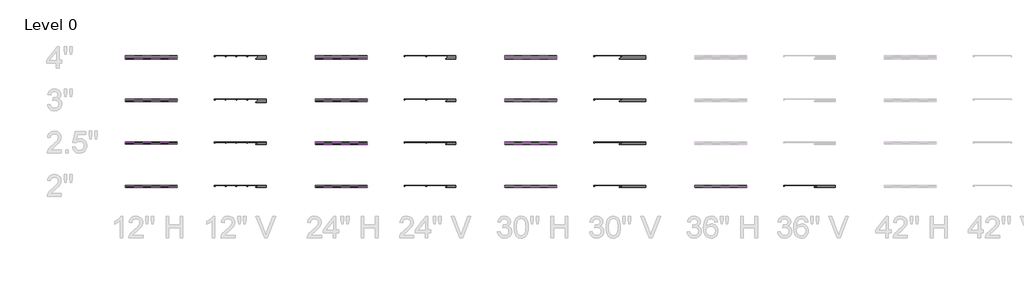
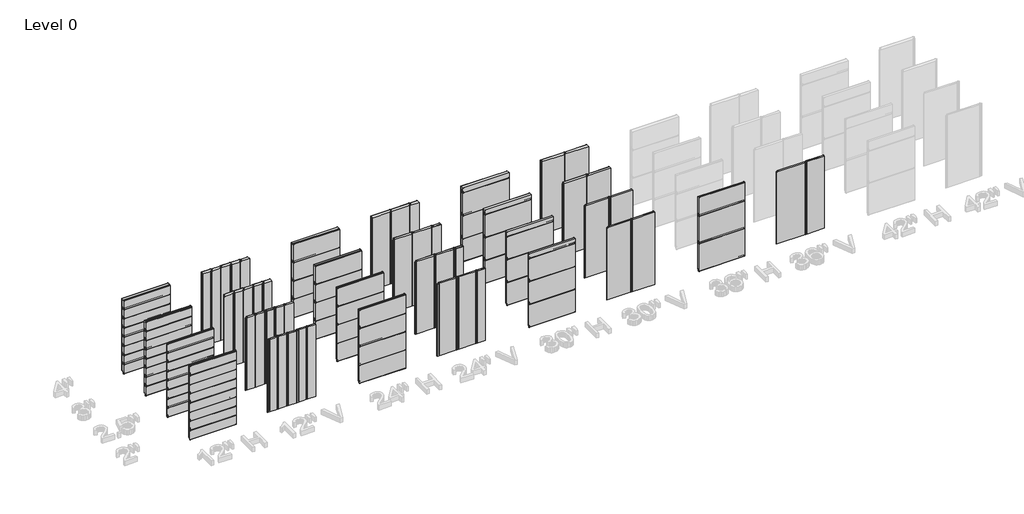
# One storey, part 1 of 5: 109 plates.
"""IFC4 building model written with IfcOpenShell, lengths in millimetres."""

from ifc_helpers import new_model, si_unit, origin, place, context, project, spatial, transform, mapped, element, save
from components import plate_d5d736a9, plate_7ae7a847, plate_e7262bf4, plate_868071fc, plate_7f3252d8, plate_fb6e7e47, plate_fc1f2779, plate_1d96f5e6, plate_dc62b988, plate_4f4d566a, plate_b7dfedd1, plate_15d6752c, plate_9c47cac3, plate_c147d802, plate_e3d8686c, plate_0189f967, plate_9adf70af, plate_6caacb33, plate_a111290b, plate_28d234ab, plate_9c1a4f24, plate_54af91b3, plate_a1647500, plate_f60e9f4d, plate_8043bdb3, plate_a1f4ee09, plate_13ea33e8, plate_2ae8091a, plate_82fcdb9b, plate_b0db7024, plate_3a0255f0, plate_8e6019d6, plate_6fc24e39, plate_dc01b275, plate_81533cbf, plate_93284a91, plate_267bbc77, plate_3ce9a7e6, plate_286a8e0f, plate_bcd3ad99, plate_d223b39a, plate_240653d1, plate_f41fd1ef, plate_e6b5dcf6, plate_4ca61c65, plate_cc8460fd, plate_b093a8a8, plate_925c1c1f

model = new_model("IFC4")

# Units and contexts
model_context = context("Model", 3, world=origin())
ifc_project = project(units=[si_unit("LENGTHUNIT", "METRE", prefix="MILLI")], contexts=[model_context])

# Site, building, storey
site = spatial("IfcSite", under=ifc_project)
building = spatial("IfcBuilding", under=site)
storey = spatial("IfcBuildingStorey", under=building, Name="Level 0", Elevation=0.0)

# Plates
placement = place(None, origin())
plate_shape = plate_d5d736a9(model_context)
element("IfcPlate", 1, ObjectType="KIP-36-DWTR-R19-CP-Hz-F : Hz 2\"", at=placement, inside=storey, context=model_context, shape_type="MappedRepresentation", body=[
    mapped(plate_shape, transform((-13782.7250935, 10881.8207172, 0.0), x_axis=(1.0, 0.0, 0.0), y_axis=(0.0, 1.0, 0.0), z_axis=(0.0, 0.0, 1.0))),
])
element("IfcPlate", 2, ObjectType="KIP-36-DWTR-R19-CP-Hz-F : Hz 2\"", at=placement, inside=storey, context=model_context, shape_type="MappedRepresentation", body=[
    mapped(plate_shape, transform((-13782.7250935, 10881.8207172, 915.0), x_axis=(1.0, 0.0, 0.0), y_axis=(0.0, 1.0, 0.0), z_axis=(0.0, 0.0, 1.0))),
])
plate_2_shape = plate_7ae7a847(model_context)
element("IfcPlate", 3, ObjectType="KIP-36-DWTR-R19-CP-Hz-F : Hz 2\"", at=placement, inside=storey, context=model_context, shape_type="MappedRepresentation", body=[
    mapped(plate_2_shape, transform((-13782.7250935, 10881.8207172, 1830.0), x_axis=(1.0, 0.0, 0.0), y_axis=(0.0, 1.0, 0.0), z_axis=(0.0, 0.0, 1.0))),
])
plate_3_shape = plate_e7262bf4(model_context)
element("IfcPlate", 4, ObjectType="KIP-30-DWTR-R19-CP-Hz-F : Hz 2\"", at=placement, inside=storey, context=model_context, shape_type="MappedRepresentation", body=[
    mapped(plate_3_shape, transform((-19116.7250935, 10881.8207172, 0.0), x_axis=(1.0, 0.0, 0.0), y_axis=(0.0, 1.0, 0.0), z_axis=(0.0, 0.0, 1.0))),
])
element("IfcPlate", 5, ObjectType="KIP-30-DWTR-R19-CP-Hz-F : Hz 2\"", at=placement, inside=storey, context=model_context, shape_type="MappedRepresentation", body=[
    mapped(plate_3_shape, transform((-19116.7250935, 10881.8207172, 762.2), x_axis=(1.0, 0.0, 0.0), y_axis=(0.0, 1.0, 0.0), z_axis=(0.0, 0.0, 1.0))),
])
element("IfcPlate", 6, ObjectType="KIP-30-DWTR-R19-CP-Hz-F : Hz 2\"", at=placement, inside=storey, context=model_context, shape_type="MappedRepresentation", body=[
    mapped(plate_3_shape, transform((-19116.7250935, 10881.8207172, 1524.4), x_axis=(1.0, 0.0, 0.0), y_axis=(0.0, 1.0, 0.0), z_axis=(0.0, 0.0, 1.0))),
])
plate_4_shape = plate_868071fc(model_context)
element("IfcPlate", 7, ObjectType="KIP-30-DWTR-R19-CP-Hz-F : Hz 2\"", at=placement, inside=storey, context=model_context, shape_type="MappedRepresentation", body=[
    mapped(plate_4_shape, transform((-19116.7250935, 10881.8207172, 2286.6), x_axis=(1.0, 0.0, 0.0), y_axis=(0.0, 1.0, 0.0), z_axis=(0.0, 0.0, 1.0))),
])
plate_5_shape = plate_7f3252d8(model_context)
element("IfcPlate", 8, ObjectType="KIP-24-DWTR-R19-CP-Hz-F : Hz 2\"", at=placement, inside=storey, context=model_context, shape_type="MappedRepresentation", body=[
    mapped(plate_5_shape, transform((-24450.7250935, 10881.8207172, 0.0), x_axis=(1.0, 0.0, 0.0), y_axis=(0.0, 1.0, 0.0), z_axis=(0.0, 0.0, 1.0))),
])
element("IfcPlate", 9, ObjectType="KIP-24-DWTR-R19-CP-Hz-F : Hz 2\"", at=placement, inside=storey, context=model_context, shape_type="MappedRepresentation", body=[
    mapped(plate_5_shape, transform((-24450.7250935, 10881.8207172, 609.6), x_axis=(1.0, 0.0, 0.0), y_axis=(0.0, 1.0, 0.0), z_axis=(0.0, 0.0, 1.0))),
])
element("IfcPlate", 10, ObjectType="KIP-24-DWTR-R19-CP-Hz-F : Hz 2\"", at=placement, inside=storey, context=model_context, shape_type="MappedRepresentation", body=[
    mapped(plate_5_shape, transform((-24450.7250935, 10881.8207172, 1219.2), x_axis=(1.0, 0.0, 0.0), y_axis=(0.0, 1.0, 0.0), z_axis=(0.0, 0.0, 1.0))),
])
plate_6_shape = plate_fb6e7e47(model_context)
element("IfcPlate", 11, ObjectType="KIP-24-DWTR-R19-CP-Hz-F : Hz 2\"", at=placement, inside=storey, context=model_context, shape_type="MappedRepresentation", body=[
    mapped(plate_6_shape, transform((-24450.7250935, 10881.8207172, 1828.8), x_axis=(1.0, 0.0, 0.0), y_axis=(0.0, 1.0, 0.0), z_axis=(0.0, 0.0, 1.0))),
])
plate_7_shape = plate_fc1f2779(model_context)
element("IfcPlate", 12, ObjectType="KIP-12-DWTR-R19-CP-Hz-F : Hz 2\"", at=placement, inside=storey, context=model_context, shape_type="MappedRepresentation", body=[
    mapped(plate_7_shape, transform((-29784.7250935, 10881.8207172, 0.0), x_axis=(1.0, 0.0, 0.0), y_axis=(0.0, 1.0, 0.0), z_axis=(0.0, 0.0, 1.0))),
])
element("IfcPlate", 13, ObjectType="KIP-12-DWTR-R19-CP-Hz-F : Hz 2\"", at=placement, inside=storey, context=model_context, shape_type="MappedRepresentation", body=[
    mapped(plate_7_shape, transform((-29784.7250935, 10881.8207172, 304.8), x_axis=(1.0, 0.0, 0.0), y_axis=(0.0, 1.0, 0.0), z_axis=(0.0, 0.0, 1.0))),
])
element("IfcPlate", 14, ObjectType="KIP-12-DWTR-R19-CP-Hz-F : Hz 2\"", at=placement, inside=storey, context=model_context, shape_type="MappedRepresentation", body=[
    mapped(plate_7_shape, transform((-29784.7250935, 10881.8207172, 609.6), x_axis=(1.0, 0.0, 0.0), y_axis=(0.0, 1.0, 0.0), z_axis=(0.0, 0.0, 1.0))),
])
element("IfcPlate", 15, ObjectType="KIP-12-DWTR-R19-CP-Hz-F : Hz 2\"", at=placement, inside=storey, context=model_context, shape_type="MappedRepresentation", body=[
    mapped(plate_7_shape, transform((-29784.7250935, 10881.8207172, 914.4), x_axis=(1.0, 0.0, 0.0), y_axis=(0.0, 1.0, 0.0), z_axis=(0.0, 0.0, 1.0))),
])
element("IfcPlate", 16, ObjectType="KIP-12-DWTR-R19-CP-Hz-F : Hz 2\"", at=placement, inside=storey, context=model_context, shape_type="MappedRepresentation", body=[
    mapped(plate_7_shape, transform((-29784.7250935, 10881.8207172, 1219.2), x_axis=(1.0, 0.0, 0.0), y_axis=(0.0, 1.0, 0.0), z_axis=(0.0, 0.0, 1.0))),
])
element("IfcPlate", 17, ObjectType="KIP-12-DWTR-R19-CP-Hz-F : Hz 2\"", at=placement, inside=storey, context=model_context, shape_type="MappedRepresentation", body=[
    mapped(plate_7_shape, transform((-29784.7250935, 10881.8207172, 1524.0), x_axis=(1.0, 0.0, 0.0), y_axis=(0.0, 1.0, 0.0), z_axis=(0.0, 0.0, 1.0))),
])
element("IfcPlate", 18, ObjectType="KIP-12-DWTR-R19-CP-Hz-F : Hz 2\"", at=placement, inside=storey, context=model_context, shape_type="MappedRepresentation", body=[
    mapped(plate_7_shape, transform((-29784.7250935, 10881.8207172, 1828.8), x_axis=(1.0, 0.0, 0.0), y_axis=(0.0, 1.0, 0.0), z_axis=(0.0, 0.0, 1.0))),
])
plate_8_shape = plate_1d96f5e6(model_context)
element("IfcPlate", 19, ObjectType="KIP-12-DWTR-R19-CP-Hz-F : Hz 2\"", at=placement, inside=storey, context=model_context, shape_type="MappedRepresentation", body=[
    mapped(plate_8_shape, transform((-29784.7250935, 10881.8207172, 2133.6), x_axis=(1.0, 0.0, 0.0), y_axis=(0.0, 1.0, 0.0), z_axis=(0.0, 0.0, 1.0))),
])
plate_9_shape = plate_dc62b988(model_context)
element("IfcPlate", 20, ObjectType="KIP-30-DWTR-R19-CP-Hz-F : Hz 2.5\"", at=placement, inside=storey, context=model_context, shape_type="MappedRepresentation", body=[
    mapped(plate_9_shape, transform((-19116.7250935, 12101.0207172, 0.0), x_axis=(1.0, 0.0, 0.0), y_axis=(0.0, 1.0, 0.0), z_axis=(0.0, 0.0, 1.0))),
])
element("IfcPlate", 21, ObjectType="KIP-30-DWTR-R19-CP-Hz-F : Hz 2.5\"", at=placement, inside=storey, context=model_context, shape_type="MappedRepresentation", body=[
    mapped(plate_9_shape, transform((-19116.7250935, 12101.0207172, 762.2), x_axis=(1.0, 0.0, 0.0), y_axis=(0.0, 1.0, 0.0), z_axis=(0.0, 0.0, 1.0))),
])
element("IfcPlate", 22, ObjectType="KIP-30-DWTR-R19-CP-Hz-F : Hz 2.5\"", at=placement, inside=storey, context=model_context, shape_type="MappedRepresentation", body=[
    mapped(plate_9_shape, transform((-19116.7250935, 12101.0207172, 1524.4), x_axis=(1.0, 0.0, 0.0), y_axis=(0.0, 1.0, 0.0), z_axis=(0.0, 0.0, 1.0))),
])
plate_10_shape = plate_4f4d566a(model_context)
element("IfcPlate", 23, ObjectType="KIP-30-DWTR-R19-CP-Hz-F : Hz 2.5\"", at=placement, inside=storey, context=model_context, shape_type="MappedRepresentation", body=[
    mapped(plate_10_shape, transform((-19116.7250935, 12101.0207172, 2286.6), x_axis=(1.0, 0.0, 0.0), y_axis=(0.0, 1.0, 0.0), z_axis=(0.0, 0.0, 1.0))),
])
plate_11_shape = plate_b7dfedd1(model_context)
element("IfcPlate", 24, ObjectType="KIP-24-DWTR-R19-CP-Hz-F : Hz 2.5\"", at=placement, inside=storey, context=model_context, shape_type="MappedRepresentation", body=[
    mapped(plate_11_shape, transform((-24450.7250935, 12101.0207172, 0.0), x_axis=(1.0, 0.0, 0.0), y_axis=(0.0, 1.0, 0.0), z_axis=(0.0, 0.0, 1.0))),
])
element("IfcPlate", 25, ObjectType="KIP-24-DWTR-R19-CP-Hz-F : Hz 2.5\"", at=placement, inside=storey, context=model_context, shape_type="MappedRepresentation", body=[
    mapped(plate_11_shape, transform((-24450.7250935, 12101.0207172, 609.6), x_axis=(1.0, 0.0, 0.0), y_axis=(0.0, 1.0, 0.0), z_axis=(0.0, 0.0, 1.0))),
])
element("IfcPlate", 26, ObjectType="KIP-24-DWTR-R19-CP-Hz-F : Hz 2.5\"", at=placement, inside=storey, context=model_context, shape_type="MappedRepresentation", body=[
    mapped(plate_11_shape, transform((-24450.7250935, 12101.0207172, 1219.2), x_axis=(1.0, 0.0, 0.0), y_axis=(0.0, 1.0, 0.0), z_axis=(0.0, 0.0, 1.0))),
])
plate_12_shape = plate_15d6752c(model_context)
element("IfcPlate", 27, ObjectType="KIP-24-DWTR-R19-CP-Hz-F : Hz 2.5\"", at=placement, inside=storey, context=model_context, shape_type="MappedRepresentation", body=[
    mapped(plate_12_shape, transform((-24450.7250935, 12101.0207172, 1828.8), x_axis=(1.0, 0.0, 0.0), y_axis=(0.0, 1.0, 0.0), z_axis=(0.0, 0.0, 1.0))),
])
element("IfcPlate", 28, ObjectType="KIP-12-DWTR-R19-CP-Hz-F : Hz 2.5\"", at=placement, inside=storey, context=model_context, shape_type="MappedRepresentation", body=[
    mapped(plate_7_shape, transform((-29784.7250935, 12101.0207172, 0.0), x_axis=(1.0, 0.0, 0.0), y_axis=(0.0, 1.0, 0.0), z_axis=(0.0, 0.0, 1.0))),
])
element("IfcPlate", 29, ObjectType="KIP-12-DWTR-R19-CP-Hz-F : Hz 2.5\"", at=placement, inside=storey, context=model_context, shape_type="MappedRepresentation", body=[
    mapped(plate_7_shape, transform((-29784.7250935, 12101.0207172, 304.8), x_axis=(1.0, 0.0, 0.0), y_axis=(0.0, 1.0, 0.0), z_axis=(0.0, 0.0, 1.0))),
])
element("IfcPlate", 30, ObjectType="KIP-12-DWTR-R19-CP-Hz-F : Hz 2.5\"", at=placement, inside=storey, context=model_context, shape_type="MappedRepresentation", body=[
    mapped(plate_7_shape, transform((-29784.7250935, 12101.0207172, 609.6), x_axis=(1.0, 0.0, 0.0), y_axis=(0.0, 1.0, 0.0), z_axis=(0.0, 0.0, 1.0))),
])
element("IfcPlate", 31, ObjectType="KIP-12-DWTR-R19-CP-Hz-F : Hz 2.5\"", at=placement, inside=storey, context=model_context, shape_type="MappedRepresentation", body=[
    mapped(plate_7_shape, transform((-29784.7250935, 12101.0207172, 914.4), x_axis=(1.0, 0.0, 0.0), y_axis=(0.0, 1.0, 0.0), z_axis=(0.0, 0.0, 1.0))),
])
element("IfcPlate", 32, ObjectType="KIP-12-DWTR-R19-CP-Hz-F : Hz 2.5\"", at=placement, inside=storey, context=model_context, shape_type="MappedRepresentation", body=[
    mapped(plate_7_shape, transform((-29784.7250935, 12101.0207172, 1219.2), x_axis=(1.0, 0.0, 0.0), y_axis=(0.0, 1.0, 0.0), z_axis=(0.0, 0.0, 1.0))),
])
element("IfcPlate", 33, ObjectType="KIP-12-DWTR-R19-CP-Hz-F : Hz 2.5\"", at=placement, inside=storey, context=model_context, shape_type="MappedRepresentation", body=[
    mapped(plate_7_shape, transform((-29784.7250935, 12101.0207172, 1524.0), x_axis=(1.0, 0.0, 0.0), y_axis=(0.0, 1.0, 0.0), z_axis=(0.0, 0.0, 1.0))),
])
element("IfcPlate", 34, ObjectType="KIP-12-DWTR-R19-CP-Hz-F : Hz 2.5\"", at=placement, inside=storey, context=model_context, shape_type="MappedRepresentation", body=[
    mapped(plate_7_shape, transform((-29784.7250935, 12101.0207172, 1828.8), x_axis=(1.0, 0.0, 0.0), y_axis=(0.0, 1.0, 0.0), z_axis=(0.0, 0.0, 1.0))),
])
element("IfcPlate", 35, ObjectType="KIP-12-DWTR-R19-CP-Hz-F : Hz 2.5\"", at=placement, inside=storey, context=model_context, shape_type="MappedRepresentation", body=[
    mapped(plate_8_shape, transform((-29784.7250935, 12101.0207172, 2133.6), x_axis=(1.0, 0.0, 0.0), y_axis=(0.0, 1.0, 0.0), z_axis=(0.0, 0.0, 1.0))),
])
plate_13_shape = plate_9c47cac3(model_context)
element("IfcPlate", 36, ObjectType="KIP-30-DWTR-R19-CP-Hz-F : Hz 3\"", at=placement, inside=storey, context=model_context, shape_type="MappedRepresentation", body=[
    mapped(plate_13_shape, transform((-19116.7250935, 13320.2207172, 0.0), x_axis=(1.0, 0.0, 0.0), y_axis=(0.0, 1.0, 0.0), z_axis=(0.0, 0.0, 1.0))),
])
element("IfcPlate", 37, ObjectType="KIP-30-DWTR-R19-CP-Hz-F : Hz 3\"", at=placement, inside=storey, context=model_context, shape_type="MappedRepresentation", body=[
    mapped(plate_13_shape, transform((-19116.7250935, 13320.2207172, 762.2), x_axis=(1.0, 0.0, 0.0), y_axis=(0.0, 1.0, 0.0), z_axis=(0.0, 0.0, 1.0))),
])
element("IfcPlate", 38, ObjectType="KIP-30-DWTR-R19-CP-Hz-F : Hz 3\"", at=placement, inside=storey, context=model_context, shape_type="MappedRepresentation", body=[
    mapped(plate_13_shape, transform((-19116.7250935, 13320.2207172, 1524.4), x_axis=(1.0, 0.0, 0.0), y_axis=(0.0, 1.0, 0.0), z_axis=(0.0, 0.0, 1.0))),
])
plate_14_shape = plate_c147d802(model_context)
element("IfcPlate", 39, ObjectType="KIP-30-DWTR-R19-CP-Hz-F : Hz 3\"", at=placement, inside=storey, context=model_context, shape_type="MappedRepresentation", body=[
    mapped(plate_14_shape, transform((-19116.7250935, 13320.2207172, 2286.6), x_axis=(1.0, 0.0, 0.0), y_axis=(0.0, 1.0, 0.0), z_axis=(0.0, 0.0, 1.0))),
])
plate_15_shape = plate_e3d8686c(model_context)
element("IfcPlate", 40, ObjectType="KIP-24-DWTR-R19-CP-Hz-F : Hz 3\"", at=placement, inside=storey, context=model_context, shape_type="MappedRepresentation", body=[
    mapped(plate_15_shape, transform((-24450.7250935, 13320.2207172, 0.0), x_axis=(1.0, 0.0, 0.0), y_axis=(0.0, 1.0, 0.0), z_axis=(0.0, 0.0, 1.0))),
])
element("IfcPlate", 41, ObjectType="KIP-24-DWTR-R19-CP-Hz-F : Hz 3\"", at=placement, inside=storey, context=model_context, shape_type="MappedRepresentation", body=[
    mapped(plate_15_shape, transform((-24450.7250935, 13320.2207172, 609.6), x_axis=(1.0, 0.0, 0.0), y_axis=(0.0, 1.0, 0.0), z_axis=(0.0, 0.0, 1.0))),
])
element("IfcPlate", 42, ObjectType="KIP-24-DWTR-R19-CP-Hz-F : Hz 3\"", at=placement, inside=storey, context=model_context, shape_type="MappedRepresentation", body=[
    mapped(plate_15_shape, transform((-24450.7250935, 13320.2207172, 1219.2), x_axis=(1.0, 0.0, 0.0), y_axis=(0.0, 1.0, 0.0), z_axis=(0.0, 0.0, 1.0))),
])
plate_16_shape = plate_0189f967(model_context)
element("IfcPlate", 43, ObjectType="KIP-24-DWTR-R19-CP-Hz-F : Hz 3\"", at=placement, inside=storey, context=model_context, shape_type="MappedRepresentation", body=[
    mapped(plate_16_shape, transform((-24450.7250935, 13320.2207172, 1828.8), x_axis=(1.0, 0.0, 0.0), y_axis=(0.0, 1.0, 0.0), z_axis=(0.0, 0.0, 1.0))),
])
plate_17_shape = plate_9adf70af(model_context)
element("IfcPlate", 44, ObjectType="KIP-12-DWTR-R19-CP-Hz-F : Hz 3\"", at=placement, inside=storey, context=model_context, shape_type="MappedRepresentation", body=[
    mapped(plate_17_shape, transform((-29784.7250935, 13320.2207172, 0.0), x_axis=(1.0, 0.0, 0.0), y_axis=(0.0, 1.0, 0.0), z_axis=(0.0, 0.0, 1.0))),
])
element("IfcPlate", 45, ObjectType="KIP-12-DWTR-R19-CP-Hz-F : Hz 3\"", at=placement, inside=storey, context=model_context, shape_type="MappedRepresentation", body=[
    mapped(plate_17_shape, transform((-29784.7250935, 13320.2207172, 304.8), x_axis=(1.0, 0.0, 0.0), y_axis=(0.0, 1.0, 0.0), z_axis=(0.0, 0.0, 1.0))),
])
element("IfcPlate", 46, ObjectType="KIP-12-DWTR-R19-CP-Hz-F : Hz 3\"", at=placement, inside=storey, context=model_context, shape_type="MappedRepresentation", body=[
    mapped(plate_17_shape, transform((-29784.7250935, 13320.2207172, 609.6), x_axis=(1.0, 0.0, 0.0), y_axis=(0.0, 1.0, 0.0), z_axis=(0.0, 0.0, 1.0))),
])
element("IfcPlate", 47, ObjectType="KIP-12-DWTR-R19-CP-Hz-F : Hz 3\"", at=placement, inside=storey, context=model_context, shape_type="MappedRepresentation", body=[
    mapped(plate_17_shape, transform((-29784.7250935, 13320.2207172, 914.4), x_axis=(1.0, 0.0, 0.0), y_axis=(0.0, 1.0, 0.0), z_axis=(0.0, 0.0, 1.0))),
])
element("IfcPlate", 48, ObjectType="KIP-12-DWTR-R19-CP-Hz-F : Hz 3\"", at=placement, inside=storey, context=model_context, shape_type="MappedRepresentation", body=[
    mapped(plate_17_shape, transform((-29784.7250935, 13320.2207172, 1219.2), x_axis=(1.0, 0.0, 0.0), y_axis=(0.0, 1.0, 0.0), z_axis=(0.0, 0.0, 1.0))),
])
element("IfcPlate", 49, ObjectType="KIP-12-DWTR-R19-CP-Hz-F : Hz 3\"", at=placement, inside=storey, context=model_context, shape_type="MappedRepresentation", body=[
    mapped(plate_17_shape, transform((-29784.7250935, 13320.2207172, 1524.0), x_axis=(1.0, 0.0, 0.0), y_axis=(0.0, 1.0, 0.0), z_axis=(0.0, 0.0, 1.0))),
])
element("IfcPlate", 50, ObjectType="KIP-12-DWTR-R19-CP-Hz-F : Hz 3\"", at=placement, inside=storey, context=model_context, shape_type="MappedRepresentation", body=[
    mapped(plate_17_shape, transform((-29784.7250935, 13320.2207172, 1828.8), x_axis=(1.0, 0.0, 0.0), y_axis=(0.0, 1.0, 0.0), z_axis=(0.0, 0.0, 1.0))),
])
plate_18_shape = plate_6caacb33(model_context)
element("IfcPlate", 51, ObjectType="KIP-12-DWTR-R19-CP-Hz-F : Hz 3\"", at=placement, inside=storey, context=model_context, shape_type="MappedRepresentation", body=[
    mapped(plate_18_shape, transform((-29784.7250935, 13320.2207172, 2133.6), x_axis=(1.0, 0.0, 0.0), y_axis=(0.0, 1.0, 0.0), z_axis=(0.0, 0.0, 1.0))),
])
plate_19_shape = plate_a111290b(model_context)
element("IfcPlate", 52, ObjectType="KIP-30-DWTR-R19-CP-Hz-F : Hz 4\"", at=placement, inside=storey, context=model_context, shape_type="MappedRepresentation", body=[
    mapped(plate_19_shape, transform((-19116.7250935, 14539.4207172, 0.0), x_axis=(1.0, 0.0, 0.0), y_axis=(0.0, 1.0, 0.0), z_axis=(0.0, 0.0, 1.0))),
])
element("IfcPlate", 53, ObjectType="KIP-30-DWTR-R19-CP-Hz-F : Hz 4\"", at=placement, inside=storey, context=model_context, shape_type="MappedRepresentation", body=[
    mapped(plate_19_shape, transform((-19116.7250935, 14539.4207172, 762.2), x_axis=(1.0, 0.0, 0.0), y_axis=(0.0, 1.0, 0.0), z_axis=(0.0, 0.0, 1.0))),
])
element("IfcPlate", 54, ObjectType="KIP-30-DWTR-R19-CP-Hz-F : Hz 4\"", at=placement, inside=storey, context=model_context, shape_type="MappedRepresentation", body=[
    mapped(plate_19_shape, transform((-19116.7250935, 14539.4207172, 1524.4), x_axis=(1.0, 0.0, 0.0), y_axis=(0.0, 1.0, 0.0), z_axis=(0.0, 0.0, 1.0))),
])
plate_20_shape = plate_28d234ab(model_context)
element("IfcPlate", 55, ObjectType="KIP-30-DWTR-R19-CP-Hz-F : Hz 4\"", at=placement, inside=storey, context=model_context, shape_type="MappedRepresentation", body=[
    mapped(plate_20_shape, transform((-19116.7250935, 14539.4207172, 2286.6), x_axis=(1.0, 0.0, 0.0), y_axis=(0.0, 1.0, 0.0), z_axis=(0.0, 0.0, 1.0))),
])
plate_21_shape = plate_9c1a4f24(model_context)
element("IfcPlate", 56, ObjectType="KIP-24-DWTR-R19-CP-Hz-F : Hz 4\"", at=placement, inside=storey, context=model_context, shape_type="MappedRepresentation", body=[
    mapped(plate_21_shape, transform((-24450.7250935, 14539.4207172, 0.0), x_axis=(1.0, 0.0, 0.0), y_axis=(0.0, 1.0, 0.0), z_axis=(0.0, 0.0, 1.0))),
])
element("IfcPlate", 57, ObjectType="KIP-24-DWTR-R19-CP-Hz-F : Hz 4\"", at=placement, inside=storey, context=model_context, shape_type="MappedRepresentation", body=[
    mapped(plate_21_shape, transform((-24450.7250935, 14539.4207172, 609.6), x_axis=(1.0, 0.0, 0.0), y_axis=(0.0, 1.0, 0.0), z_axis=(0.0, 0.0, 1.0))),
])
element("IfcPlate", 58, ObjectType="KIP-24-DWTR-R19-CP-Hz-F : Hz 4\"", at=placement, inside=storey, context=model_context, shape_type="MappedRepresentation", body=[
    mapped(plate_21_shape, transform((-24450.7250935, 14539.4207172, 1219.2), x_axis=(1.0, 0.0, 0.0), y_axis=(0.0, 1.0, 0.0), z_axis=(0.0, 0.0, 1.0))),
])
plate_22_shape = plate_54af91b3(model_context)
element("IfcPlate", 59, ObjectType="KIP-24-DWTR-R19-CP-Hz-F : Hz 4\"", at=placement, inside=storey, context=model_context, shape_type="MappedRepresentation", body=[
    mapped(plate_22_shape, transform((-24450.7250935, 14539.4207172, 1828.8), x_axis=(1.0, 0.0, 0.0), y_axis=(0.0, 1.0, 0.0), z_axis=(0.0, 0.0, 1.0))),
])
plate_23_shape = plate_a1647500(model_context)
element("IfcPlate", 60, ObjectType="KIP-12-DWTR-R19-CP-Hz-F : Hz 4\"", at=placement, inside=storey, context=model_context, shape_type="MappedRepresentation", body=[
    mapped(plate_23_shape, transform((-29784.7250935, 14539.4207172, 0.0), x_axis=(1.0, 0.0, 0.0), y_axis=(0.0, 1.0, 0.0), z_axis=(0.0, 0.0, 1.0))),
])
element("IfcPlate", 61, ObjectType="KIP-12-DWTR-R19-CP-Hz-F : Hz 4\"", at=placement, inside=storey, context=model_context, shape_type="MappedRepresentation", body=[
    mapped(plate_23_shape, transform((-29784.7250935, 14539.4207172, 304.8), x_axis=(1.0, 0.0, 0.0), y_axis=(0.0, 1.0, 0.0), z_axis=(0.0, 0.0, 1.0))),
])
element("IfcPlate", 62, ObjectType="KIP-12-DWTR-R19-CP-Hz-F : Hz 4\"", at=placement, inside=storey, context=model_context, shape_type="MappedRepresentation", body=[
    mapped(plate_23_shape, transform((-29784.7250935, 14539.4207172, 609.6), x_axis=(1.0, 0.0, 0.0), y_axis=(0.0, 1.0, 0.0), z_axis=(0.0, 0.0, 1.0))),
])
element("IfcPlate", 63, ObjectType="KIP-12-DWTR-R19-CP-Hz-F : Hz 4\"", at=placement, inside=storey, context=model_context, shape_type="MappedRepresentation", body=[
    mapped(plate_23_shape, transform((-29784.7250935, 14539.4207172, 914.4), x_axis=(1.0, 0.0, 0.0), y_axis=(0.0, 1.0, 0.0), z_axis=(0.0, 0.0, 1.0))),
])
element("IfcPlate", 64, ObjectType="KIP-12-DWTR-R19-CP-Hz-F : Hz 4\"", at=placement, inside=storey, context=model_context, shape_type="MappedRepresentation", body=[
    mapped(plate_23_shape, transform((-29784.7250935, 14539.4207172, 1219.2), x_axis=(1.0, 0.0, 0.0), y_axis=(0.0, 1.0, 0.0), z_axis=(0.0, 0.0, 1.0))),
])
element("IfcPlate", 65, ObjectType="KIP-12-DWTR-R19-CP-Hz-F : Hz 4\"", at=placement, inside=storey, context=model_context, shape_type="MappedRepresentation", body=[
    mapped(plate_23_shape, transform((-29784.7250935, 14539.4207172, 1524.0), x_axis=(1.0, 0.0, 0.0), y_axis=(0.0, 1.0, 0.0), z_axis=(0.0, 0.0, 1.0))),
])
element("IfcPlate", 66, ObjectType="KIP-12-DWTR-R19-CP-Hz-F : Hz 4\"", at=placement, inside=storey, context=model_context, shape_type="MappedRepresentation", body=[
    mapped(plate_23_shape, transform((-29784.7250935, 14539.4207172, 1828.8), x_axis=(1.0, 0.0, 0.0), y_axis=(0.0, 1.0, 0.0), z_axis=(0.0, 0.0, 1.0))),
])
plate_24_shape = plate_f60e9f4d(model_context)
element("IfcPlate", 67, ObjectType="KIP-12-DWTR-R19-CP-Hz-F : Hz 4\"", at=placement, inside=storey, context=model_context, shape_type="MappedRepresentation", body=[
    mapped(plate_24_shape, transform((-29784.7250935, 14539.4207172, 2133.6), x_axis=(1.0, 0.0, 0.0), y_axis=(0.0, 1.0, 0.0), z_axis=(0.0, 0.0, 1.0))),
])
plate_25_shape = plate_8043bdb3(model_context)
element("IfcPlate", 68, ObjectType="KIP-36-DWTR-R19-CP-Vt-F : Vt 2\"", at=placement, inside=storey, context=model_context, shape_type="MappedRepresentation", body=[
    mapped(plate_25_shape, transform((-11555.4413834, 10881.8207172, 0.0), x_axis=(1.0, 0.0, 0.0), y_axis=(0.0, 1.0, 0.0), z_axis=(0.0, 0.0, 1.0))),
])
plate_26_shape = plate_a1f4ee09(model_context)
element("IfcPlate", 69, ObjectType="KIP-36-DWTR-R19-CP-Vt-F : Vt 2\"", at=placement, inside=storey, context=model_context, shape_type="MappedRepresentation", body=[
    mapped(plate_26_shape, transform((-10825.4413834, 10881.8207172, 0.0), x_axis=(1.0, 0.0, 0.0), y_axis=(0.0, 1.0, 0.0), z_axis=(0.0, 0.0, 1.0))),
])
plate_27_shape = plate_13ea33e8(model_context)
element("IfcPlate", 70, ObjectType="KIP-30-DWTR-R19-CP-Vt-F : Vt 2\"", at=placement, inside=storey, context=model_context, shape_type="MappedRepresentation", body=[
    mapped(plate_27_shape, transform((-16965.8413834, 10881.8207172, 0.0), x_axis=(1.0, 0.0, 0.0), y_axis=(0.0, 1.0, 0.0), z_axis=(0.0, 0.0, 1.0))),
])
plate_28_shape = plate_2ae8091a(model_context)
element("IfcPlate", 71, ObjectType="KIP-30-DWTR-R19-CP-Vt-F : Vt 2\"", at=placement, inside=storey, context=model_context, shape_type="MappedRepresentation", body=[
    mapped(plate_28_shape, transform((-16235.8413834, 10881.8207172, 0.0), x_axis=(1.0, 0.0, 0.0), y_axis=(0.0, 1.0, 0.0), z_axis=(0.0, 0.0, 1.0))),
])
plate_29_shape = plate_82fcdb9b(model_context)
element("IfcPlate", 72, ObjectType="KIP-24-DWTR-R19-CP-Vt-F : Vt 2\"", at=placement, inside=storey, context=model_context, shape_type="MappedRepresentation", body=[
    mapped(plate_29_shape, transform((-22376.1413834, 10881.8207172, 0.0), x_axis=(1.0, 0.0, 0.0), y_axis=(0.0, 1.0, 0.0), z_axis=(0.0, 0.0, 1.0))),
])
element("IfcPlate", 73, ObjectType="KIP-24-DWTR-R19-CP-Vt-F : Vt 2\"", at=placement, inside=storey, context=model_context, shape_type="MappedRepresentation", body=[
    mapped(plate_29_shape, transform((-21766.5413833, 10881.8207172, 0.0), x_axis=(1.0, 0.0, 0.0), y_axis=(0.0, 1.0, 0.0), z_axis=(0.0, 0.0, 1.0))),
])
plate_30_shape = plate_b0db7024(model_context)
element("IfcPlate", 74, ObjectType="KIP-24-DWTR-R19-CP-Vt-F : Vt 2\"", at=placement, inside=storey, context=model_context, shape_type="MappedRepresentation", body=[
    mapped(plate_30_shape, transform((-21341.3413834, 10881.8207172, 0.0), x_axis=(1.0, 0.0, 0.0), y_axis=(0.0, 1.0, 0.0), z_axis=(0.0, 0.0, 1.0))),
])
plate_31_shape = plate_3a0255f0(model_context)
element("IfcPlate", 75, ObjectType="KIP-12-DWTR-R19-CP-Vt-F : Vt 2\"", at=placement, inside=storey, context=model_context, shape_type="MappedRepresentation", body=[
    mapped(plate_31_shape, transform((-27862.5413834, 10881.8207172, 0.0), x_axis=(1.0, 0.0, 0.0), y_axis=(0.0, 1.0, 0.0), z_axis=(0.0, 0.0, 1.0))),
])
element("IfcPlate", 76, ObjectType="KIP-12-DWTR-R19-CP-Vt-F : Vt 2\"", at=placement, inside=storey, context=model_context, shape_type="MappedRepresentation", body=[
    mapped(plate_31_shape, transform((-26948.1413833, 10881.8207172, 0.0), x_axis=(1.0, 0.0, 0.0), y_axis=(0.0, 1.0, 0.0), z_axis=(0.0, 0.0, 1.0))),
])
element("IfcPlate", 77, ObjectType="KIP-12-DWTR-R19-CP-Vt-F : Vt 2\"", at=placement, inside=storey, context=model_context, shape_type="MappedRepresentation", body=[
    mapped(plate_31_shape, transform((-27252.9413833, 10881.8207172, 0.0), x_axis=(1.0, 0.0, 0.0), y_axis=(0.0, 1.0, 0.0), z_axis=(0.0, 0.0, 1.0))),
])
element("IfcPlate", 78, ObjectType="KIP-12-DWTR-R19-CP-Vt-F : Vt 2\"", at=placement, inside=storey, context=model_context, shape_type="MappedRepresentation", body=[
    mapped(plate_31_shape, transform((-27557.7413833, 10881.8207172, 0.0), x_axis=(1.0, 0.0, 0.0), y_axis=(0.0, 1.0, 0.0), z_axis=(0.0, 0.0, 1.0))),
])
plate_32_shape = plate_8e6019d6(model_context)
element("IfcPlate", 79, ObjectType="KIP-12-DWTR-R19-CP-Vt-F : Vt 2\"", at=placement, inside=storey, context=model_context, shape_type="MappedRepresentation", body=[
    mapped(plate_32_shape, transform((-26675.3413834, 10881.8207172, 0.0), x_axis=(1.0, 0.0, 0.0), y_axis=(0.0, 1.0, 0.0), z_axis=(0.0, 0.0, 1.0))),
])
plate_33_shape = plate_6fc24e39(model_context)
element("IfcPlate", 80, ObjectType="KIP-30-DWTR-R19-CP-Vt-F : Vt 2.5\"", at=placement, inside=storey, context=model_context, shape_type="MappedRepresentation", body=[
    mapped(plate_33_shape, transform((-16965.8413834, 12101.0207172, 0.0), x_axis=(1.0, 0.0, 0.0), y_axis=(0.0, 1.0, 0.0), z_axis=(0.0, 0.0, 1.0))),
])
plate_34_shape = plate_dc01b275(model_context)
element("IfcPlate", 81, ObjectType="KIP-30-DWTR-R19-CP-Vt-F : Vt 2.5\"", at=placement, inside=storey, context=model_context, shape_type="MappedRepresentation", body=[
    mapped(plate_34_shape, transform((-16235.8413834, 12101.0207172, 0.0), x_axis=(1.0, 0.0, 0.0), y_axis=(0.0, 1.0, 0.0), z_axis=(0.0, 0.0, 1.0))),
])
plate_35_shape = plate_81533cbf(model_context)
element("IfcPlate", 82, ObjectType="KIP-24-DWTR-R19-CP-Vt-F : Vt 2.5\"", at=placement, inside=storey, context=model_context, shape_type="MappedRepresentation", body=[
    mapped(plate_35_shape, transform((-22376.1413834, 12101.0207172, 0.0), x_axis=(1.0, 0.0, 0.0), y_axis=(0.0, 1.0, 0.0), z_axis=(0.0, 0.0, 1.0))),
])
element("IfcPlate", 83, ObjectType="KIP-24-DWTR-R19-CP-Vt-F : Vt 2.5\"", at=placement, inside=storey, context=model_context, shape_type="MappedRepresentation", body=[
    mapped(plate_35_shape, transform((-21766.5413833, 12101.0207172, 0.0), x_axis=(1.0, 0.0, 0.0), y_axis=(0.0, 1.0, 0.0), z_axis=(0.0, 0.0, 1.0))),
])
plate_36_shape = plate_93284a91(model_context)
element("IfcPlate", 84, ObjectType="KIP-24-DWTR-R19-CP-Vt-F : Vt 2.5\"", at=placement, inside=storey, context=model_context, shape_type="MappedRepresentation", body=[
    mapped(plate_36_shape, transform((-21341.3413834, 12101.0207172, 0.0), x_axis=(1.0, 0.0, 0.0), y_axis=(0.0, 1.0, 0.0), z_axis=(0.0, 0.0, 1.0))),
])
plate_37_shape = plate_267bbc77(model_context)
element("IfcPlate", 85, ObjectType="KIP-12-DWTR-R19-CP-Vt-F : Vt 2.5\"", at=placement, inside=storey, context=model_context, shape_type="MappedRepresentation", body=[
    mapped(plate_37_shape, transform((-27862.5413834, 12101.0207172, 0.0), x_axis=(1.0, 0.0, 0.0), y_axis=(0.0, 1.0, 0.0), z_axis=(0.0, 0.0, 1.0))),
])
element("IfcPlate", 86, ObjectType="KIP-12-DWTR-R19-CP-Vt-F : Vt 2.5\"", at=placement, inside=storey, context=model_context, shape_type="MappedRepresentation", body=[
    mapped(plate_37_shape, transform((-26948.1413833, 12101.0207172, 0.0), x_axis=(1.0, 0.0, 0.0), y_axis=(0.0, 1.0, 0.0), z_axis=(0.0, 0.0, 1.0))),
])
element("IfcPlate", 87, ObjectType="KIP-12-DWTR-R19-CP-Vt-F : Vt 2.5\"", at=placement, inside=storey, context=model_context, shape_type="MappedRepresentation", body=[
    mapped(plate_37_shape, transform((-27252.9413833, 12101.0207172, 0.0), x_axis=(1.0, 0.0, 0.0), y_axis=(0.0, 1.0, 0.0), z_axis=(0.0, 0.0, 1.0))),
])
element("IfcPlate", 88, ObjectType="KIP-12-DWTR-R19-CP-Vt-F : Vt 2.5\"", at=placement, inside=storey, context=model_context, shape_type="MappedRepresentation", body=[
    mapped(plate_37_shape, transform((-27557.7413833, 12101.0207172, 0.0), x_axis=(1.0, 0.0, 0.0), y_axis=(0.0, 1.0, 0.0), z_axis=(0.0, 0.0, 1.0))),
])
plate_38_shape = plate_3ce9a7e6(model_context)
element("IfcPlate", 89, ObjectType="KIP-12-DWTR-R19-CP-Vt-F : Vt 2.5\"", at=placement, inside=storey, context=model_context, shape_type="MappedRepresentation", body=[
    mapped(plate_38_shape, transform((-26675.3413834, 12101.0207172, 0.0), x_axis=(1.0, 0.0, 0.0), y_axis=(0.0, 1.0, 0.0), z_axis=(0.0, 0.0, 1.0))),
])
plate_39_shape = plate_286a8e0f(model_context)
element("IfcPlate", 90, ObjectType="KIP-30-DWTR-R19-CP-Vt-F : Vt 3\"", at=placement, inside=storey, context=model_context, shape_type="MappedRepresentation", body=[
    mapped(plate_39_shape, transform((-16965.8413834, 13320.2207172, 0.0), x_axis=(1.0, 0.0, 0.0), y_axis=(0.0, 1.0, 0.0), z_axis=(0.0, 0.0, 1.0))),
])
plate_40_shape = plate_bcd3ad99(model_context)
element("IfcPlate", 91, ObjectType="KIP-30-DWTR-R19-CP-Vt-F : Vt 3\"", at=placement, inside=storey, context=model_context, shape_type="MappedRepresentation", body=[
    mapped(plate_40_shape, transform((-16235.8413834, 13320.2207172, 0.0), x_axis=(1.0, 0.0, 0.0), y_axis=(0.0, 1.0, 0.0), z_axis=(0.0, 0.0, 1.0))),
])
plate_41_shape = plate_d223b39a(model_context)
element("IfcPlate", 92, ObjectType="KIP-24-DWTR-R19-CP-Vt-F : Vt 3\"", at=placement, inside=storey, context=model_context, shape_type="MappedRepresentation", body=[
    mapped(plate_41_shape, transform((-22376.1413834, 13320.2207172, 0.0), x_axis=(1.0, 0.0, 0.0), y_axis=(0.0, 1.0, 0.0), z_axis=(0.0, 0.0, 1.0))),
])
element("IfcPlate", 93, ObjectType="KIP-24-DWTR-R19-CP-Vt-F : Vt 3\"", at=placement, inside=storey, context=model_context, shape_type="MappedRepresentation", body=[
    mapped(plate_41_shape, transform((-21766.5413833, 13320.2207172, 0.0), x_axis=(1.0, 0.0, 0.0), y_axis=(0.0, 1.0, 0.0), z_axis=(0.0, 0.0, 1.0))),
])
plate_42_shape = plate_240653d1(model_context)
element("IfcPlate", 94, ObjectType="KIP-24-DWTR-R19-CP-Vt-F : Vt 3\"", at=placement, inside=storey, context=model_context, shape_type="MappedRepresentation", body=[
    mapped(plate_42_shape, transform((-21341.3413834, 13320.2207172, 0.0), x_axis=(1.0, 0.0, 0.0), y_axis=(0.0, 1.0, 0.0), z_axis=(0.0, 0.0, 1.0))),
])
plate_43_shape = plate_f41fd1ef(model_context)
element("IfcPlate", 95, ObjectType="KIP-12-DWTR-R19-CP-Vt-F : Vt 3\"", at=placement, inside=storey, context=model_context, shape_type="MappedRepresentation", body=[
    mapped(plate_43_shape, transform((-27862.5413834, 13320.2207172, 0.0), x_axis=(1.0, 0.0, 0.0), y_axis=(0.0, 1.0, 0.0), z_axis=(0.0, 0.0, 1.0))),
])
element("IfcPlate", 96, ObjectType="KIP-12-DWTR-R19-CP-Vt-F : Vt 3\"", at=placement, inside=storey, context=model_context, shape_type="MappedRepresentation", body=[
    mapped(plate_43_shape, transform((-26948.1413833, 13320.2207172, 0.0), x_axis=(1.0, 0.0, 0.0), y_axis=(0.0, 1.0, 0.0), z_axis=(0.0, 0.0, 1.0))),
])
element("IfcPlate", 97, ObjectType="KIP-12-DWTR-R19-CP-Vt-F : Vt 3\"", at=placement, inside=storey, context=model_context, shape_type="MappedRepresentation", body=[
    mapped(plate_43_shape, transform((-27252.9413833, 13320.2207172, 0.0), x_axis=(1.0, 0.0, 0.0), y_axis=(0.0, 1.0, 0.0), z_axis=(0.0, 0.0, 1.0))),
])
element("IfcPlate", 98, ObjectType="KIP-12-DWTR-R19-CP-Vt-F : Vt 3\"", at=placement, inside=storey, context=model_context, shape_type="MappedRepresentation", body=[
    mapped(plate_43_shape, transform((-27557.7413833, 13320.2207172, 0.0), x_axis=(1.0, 0.0, 0.0), y_axis=(0.0, 1.0, 0.0), z_axis=(0.0, 0.0, 1.0))),
])
plate_44_shape = plate_e6b5dcf6(model_context)
element("IfcPlate", 99, ObjectType="KIP-12-DWTR-R19-CP-Vt-F : Vt 3\"", at=placement, inside=storey, context=model_context, shape_type="MappedRepresentation", body=[
    mapped(plate_44_shape, transform((-26675.3413834, 13320.2207172, 0.0), x_axis=(1.0, 0.0, 0.0), y_axis=(0.0, 1.0, 0.0), z_axis=(0.0, 0.0, 1.0))),
])
plate_45_shape = plate_4ca61c65(model_context)
element("IfcPlate", 100, ObjectType="KIP-30-DWTR-R19-CP-Vt-F : Vt 4\"", at=placement, inside=storey, context=model_context, shape_type="MappedRepresentation", body=[
    mapped(plate_45_shape, transform((-16965.8413834, 14539.4207172, 0.0), x_axis=(1.0, 0.0, 0.0), y_axis=(0.0, 1.0, 0.0), z_axis=(0.0, 0.0, 1.0))),
])
plate_46_shape = plate_cc8460fd(model_context)
element("IfcPlate", 101, ObjectType="KIP-30-DWTR-R19-CP-Vt-F : Vt 4\"", at=placement, inside=storey, context=model_context, shape_type="MappedRepresentation", body=[
    mapped(plate_46_shape, transform((-16235.8413834, 14539.4207172, 0.0), x_axis=(1.0, 0.0, 0.0), y_axis=(0.0, 1.0, 0.0), z_axis=(0.0, 0.0, 1.0))),
])
plate_47_shape = plate_b093a8a8(model_context)
element("IfcPlate", 102, ObjectType="KIP-24-DWTR-R19-CP-Vt-F : Vt 4\"", at=placement, inside=storey, context=model_context, shape_type="MappedRepresentation", body=[
    mapped(plate_47_shape, transform((-22376.1413834, 14539.4207172, 0.0), x_axis=(1.0, 0.0, 0.0), y_axis=(0.0, 1.0, 0.0), z_axis=(0.0, 0.0, 1.0))),
])
element("IfcPlate", 103, ObjectType="KIP-24-DWTR-R19-CP-Vt-F : Vt 4\"", at=placement, inside=storey, context=model_context, shape_type="MappedRepresentation", body=[
    mapped(plate_47_shape, transform((-21766.5413833, 14539.4207172, 0.0), x_axis=(1.0, 0.0, 0.0), y_axis=(0.0, 1.0, 0.0), z_axis=(0.0, 0.0, 1.0))),
])
plate_48_shape = plate_925c1c1f(model_context)
element("IfcPlate", 104, ObjectType="KIP-24-DWTR-R19-CP-Vt-F : Vt 4\"", at=placement, inside=storey, context=model_context, shape_type="MappedRepresentation", body=[
    mapped(plate_48_shape, transform((-21341.3413834, 14539.4207172, 0.0), x_axis=(1.0, 0.0, 0.0), y_axis=(0.0, 1.0, 0.0), z_axis=(0.0, 0.0, 1.0))),
])
element("IfcPlate", 105, ObjectType="KIP-12-DWTR-R19-CP-Vt-F : Vt 4\"", at=placement, inside=storey, context=model_context, shape_type="MappedRepresentation", body=[
    mapped(plate_43_shape, transform((-27862.5413834, 14539.4207172, 0.0), x_axis=(1.0, 0.0, 0.0), y_axis=(0.0, 1.0, 0.0), z_axis=(0.0, 0.0, 1.0))),
])
element("IfcPlate", 106, ObjectType="KIP-12-DWTR-R19-CP-Vt-F : Vt 4\"", at=placement, inside=storey, context=model_context, shape_type="MappedRepresentation", body=[
    mapped(plate_43_shape, transform((-26948.1413833, 14539.4207172, 0.0), x_axis=(1.0, 0.0, 0.0), y_axis=(0.0, 1.0, 0.0), z_axis=(0.0, 0.0, 1.0))),
])
element("IfcPlate", 107, ObjectType="KIP-12-DWTR-R19-CP-Vt-F : Vt 4\"", at=placement, inside=storey, context=model_context, shape_type="MappedRepresentation", body=[
    mapped(plate_43_shape, transform((-27252.9413833, 14539.4207172, 0.0), x_axis=(1.0, 0.0, 0.0), y_axis=(0.0, 1.0, 0.0), z_axis=(0.0, 0.0, 1.0))),
])
element("IfcPlate", 108, ObjectType="KIP-12-DWTR-R19-CP-Vt-F : Vt 4\"", at=placement, inside=storey, context=model_context, shape_type="MappedRepresentation", body=[
    mapped(plate_43_shape, transform((-27557.7413833, 14539.4207172, 0.0), x_axis=(1.0, 0.0, 0.0), y_axis=(0.0, 1.0, 0.0), z_axis=(0.0, 0.0, 1.0))),
])
element("IfcPlate", 109, ObjectType="KIP-12-DWTR-R19-CP-Vt-F : Vt 4\"", at=placement, inside=storey, context=model_context, shape_type="MappedRepresentation", body=[
    mapped(plate_44_shape, transform((-26675.3413834, 14539.4207172, 0.0), x_axis=(1.0, 0.0, 0.0), y_axis=(0.0, 1.0, 0.0), z_axis=(0.0, 0.0, 1.0))),
])

save(model, "model.ifc")
